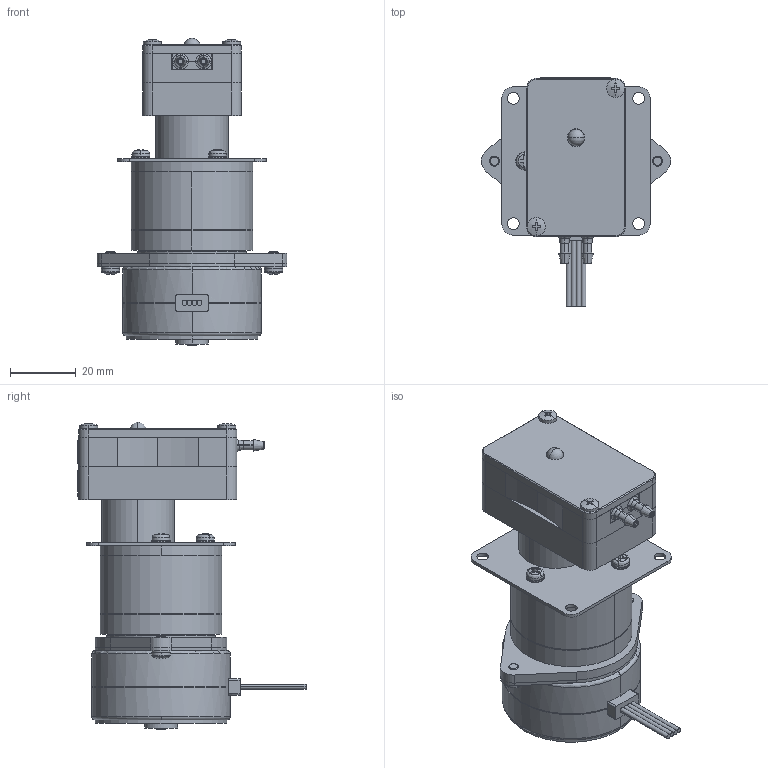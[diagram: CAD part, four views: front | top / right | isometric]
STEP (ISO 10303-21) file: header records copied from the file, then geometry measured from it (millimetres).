
FILE_DESCRIPTION (( 'STEP AP214' ), '1' );
FILE_NAME ('RP-H02S-10A-DC5VS_forWEB.STEP', '2023-11-01T06:14:16', ( '' ), ( '' ), 'SwSTEP 2.0', 'SolidWorks 2023', '' );
FILE_SCHEMA (( 'AUTOMOTIVE_DESIGN' ));
Length unit declared in the file: millimetre
Products named in the file (22): TP-MX444-PHM-5-Y983-5; RP-G3N_JOINER_R1_forWEB; M3_S_W8-WS000; br0029_a; MX444(42BY48H05); RIVETRS-STN-W4-8-forWEB_RIVETRS-STN-W4-8; M3_S_W5-WS000; RP-H02S-10A-DC5VS_forWEB; CSPPNB2-ST-M3-5-2_CSPPNB2-ST-M3-5-2; PUMP CASE -A_forWEB; HM-5-Y983; DC0004; PR-Y748; M26x10_Pタイト_CSPBDS2B-ST-TP2_6-10; MP-Y983; KA-Y983; RP-H02S-10A-DC5VS_forWEB_PumpHeadAssy; COVER; ROTOR_forWEB; RP-H02S-10A-DC5VS_forWEB_PumpBassAssy; CSPPNB2-ST-M3-5-1_CSPPNB2-ST-M3-5-1; BASE_forWEB
Assembly tree (30 placements, depth 5):
  RP-H02S-10A-DC5VS_forWEB
    RP-H02S-10A-DC5VS_forWEB_PumpBassAssy
      BASE_forWEB
      ROTOR_forWEB
      TP-MX444-PHM-5-Y983-5
        KA-Y983
        MX444(42BY48H05)
        br0029_a
        HM-5-Y983
        M3_S_W5-WS000  x5
          CSPPNB2-ST-M3-5-1_CSPPNB2-ST-M3-5-1
          CSPPNB2-ST-M3-5-2_CSPPNB2-ST-M3-5-2
        MP-Y983
        PR-Y748
        M3_S_W8-WS000  x3
        DC0004
    RP-H02S-10A-DC5VS_forWEB_PumpHeadAssy
      RP-G3N_JOINER_R1_forWEB
      M26x10_Pタイト_CSPBDS2B-ST-TP2_6-10  x2
      RIVETRS-STN-W4-8-forWEB_RIVETRS-STN-W4-8  x3
      PUMP CASE -A_forWEB
      COVER
Bounding box: 57.5 x 69.2 x 93.3 mm (x, y, z)
Volume: 69937.6 mm3; surface area: 43470.8 mm2
Topology: 28 solids, 34 shells, 1022 faces, 2536 edges, 1633 vertices
Faces by surface type: cylinder 454, plane 381, cone 87, bspline 58, torus 36, sphere 6
Entity records: 23789 total; most frequent: CARTESIAN_POINT 5170, DIRECTION 4068, ORIENTED_EDGE 3568, EDGE_CURVE 1790, AXIS2_PLACEMENT_3D 1639, VERTEX_POINT 1161, CIRCLE 896, EDGE_LOOP 853
